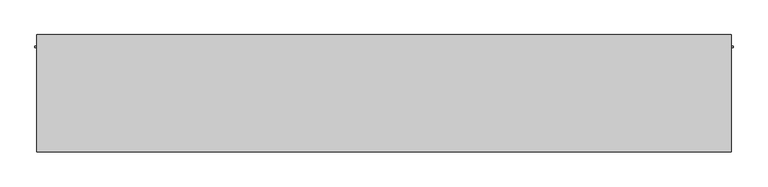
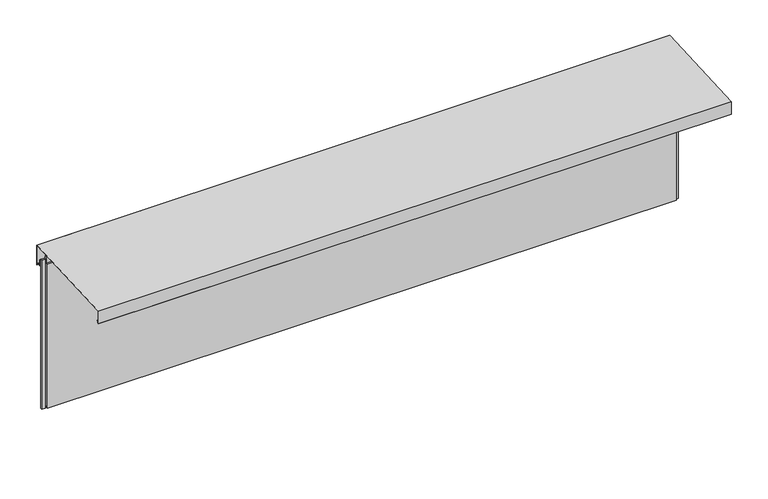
"""IFC4 building model written with IfcOpenShell, lengths in millimetres: plate geometry, Trimo_Qbiss Screen_Normal Panel-HORIZONTAL : HR - B."""

from ifc_helpers import new_model, si_unit, frame, origin, place, context, project, spatial, polyline, outline, extrude, source, transform, mapped, element, save


def plate_1f021189(model_context):
    return source(origin(), model_context, "Body", "SweptSolid", [
        extrude(outline(polyline([(101.0, 868.0), (77.0, 868.0), (77.0, 868.8), (101.8, 868.8), (101.8, 831.8), (125.3313708, 831.8), (133.2, 823.9313708), (133.2, 822.8), (125.0, 831.0), (101.0, 831.0), (101.0, 868.0)])), frame((-1787.5, 0.0, 0.0), z_axis=(1.0, 0.0, 0.0), x_axis=(0.0, 1.0, 0.0)), (0.0, 0.0, 1.0), 3575.0),
        extrude(outline(polyline([(134.2, 818.9715729), (134.2, 934.1569759), (-469.2, 905.4165497), (-469.2, 833.1070922), (-457.6367532, 844.670339), (-457.0710678, 844.1046536), (-470.0, 831.1757214), (-470.0, 906.1757214), (135.0, 935.0), (135.0, 817.040202), (123.020101, 829.020101), (123.5857864, 829.5857864), (134.2, 818.9715729)])), frame((-1787.5, 0.0, 0.0), z_axis=(1.0, 0.0, 0.0), x_axis=(0.0, 1.0, 0.0)), (0.0, 0.0, 1.0), 3575.0),
        extrude(outline(polyline([(-1778.0, 76.5978162), (-1778.0, 67.8978162), (-1797.0, 67.8978162), (-1797.0, 76.5978162), (-1778.0, 76.5978162)])), frame((0.0, 0.0, -1.0), z_axis=(0.0, 0.0, 1.0), x_axis=(1.0, 0.0, 0.0)), (0.0, 0.0, 1.0), 890.0),
        extrude(outline(polyline([(1778.0, 67.8978162), (1778.0, 76.5978162), (1797.0, 76.5978162), (1797.0, 67.8978162), (1778.0, 67.8978162)])), frame((0.0, 0.0, -1.0), z_axis=(0.0, 0.0, 1.0), x_axis=(1.0, 0.0, 0.0)), (0.0, 0.0, 1.0), 890.0),
        extrude(outline(polyline([(1775.0, 76.0), (1775.0, 71.0), (-1775.0, 71.0), (-1775.0, 76.0), (1775.0, 76.0)])), frame((0.0, 0.0, 868.0), z_axis=(0.0, 0.0, 1.0), x_axis=(1.0, 0.0, 0.0)), (0.0, 0.0, 1.0), 21.0),
        extrude(outline(polyline([(71.0, 867.0), (100.0, 867.0), (100.0, 0.0), (72.0, 0.0), (72.0, 15.5), (62.0, 15.5), (62.0, 7.0), (50.0, 7.0), (50.0, 867.0), (63.0, 867.0), (63.0, 904.5), (71.0, 904.5), (71.0, 867.0)])), frame((-1775.0, 0.0, 0.0), z_axis=(1.0, 0.0, 0.0), x_axis=(0.0, 1.0, 0.0)), (0.0, 0.0, 1.0), 3550.0),
    ])


if __name__ == "__main__":
    model = new_model("IFC4")
    model_context = context("Model", 3, world=origin())
    ifc_project = project(units=[si_unit("LENGTHUNIT", "METRE", prefix="MILLI")], contexts=[model_context])
    site = spatial("IfcSite", under=ifc_project)
    building = spatial("IfcBuilding", under=site)
    placement = place(None, origin())
    plate_shape = plate_1f021189(model_context)
    element("IfcPlate", 1, ObjectType="Trimo_Qbiss Screen_Normal Panel-HORIZONTAL : HR - B", at=placement, inside=building, context=model_context, shape_type="MappedRepresentation", body=[
        mapped(plate_shape, transform((0.0, 0.0, 0.0), x_axis=(1.0, 0.0, 0.0), y_axis=(0.0, 1.0, 0.0), z_axis=(0.0, 0.0, 1.0))),
    ])
    save(model, "model.ifc")
